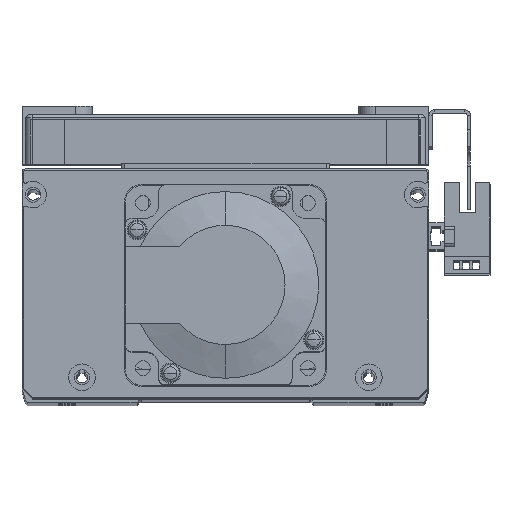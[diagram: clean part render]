
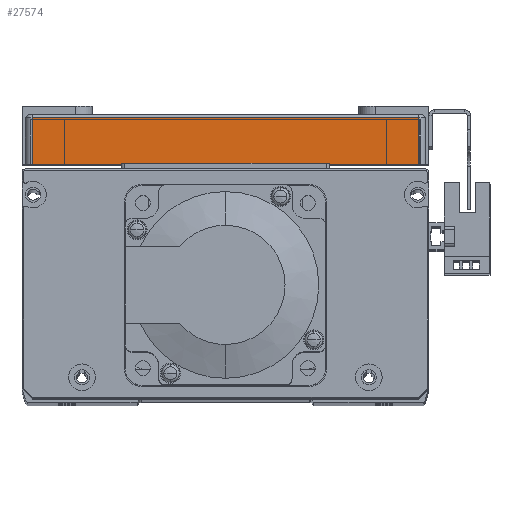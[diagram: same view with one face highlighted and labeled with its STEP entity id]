
A CAD part, top view. The second image highlights one B-rep face of the part: STEP entity #27574.
In plain terms, the highlighted planar face has unit normal (0, 0, 1) as drawn and (1, 0, 0) by its records, which use the part's own axes.
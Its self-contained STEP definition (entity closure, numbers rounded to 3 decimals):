
#24757 = VECTOR ( 'NONE', #25935, 1000. ) ;
#24758 = LINE ( 'NONE', #25075, #24785 ) ;
#24784 = LINE ( 'NONE', #25926, #24757 ) ;
#24785 = VECTOR ( 'NONE', #25313, 1000. ) ;
#24791 = LINE ( 'NONE', #25927, #24793 ) ;
#24793 = VECTOR ( 'NONE', #25920, 1000. ) ;
#24862 = LINE ( 'NONE', #30493, #24874 ) ;
#24874 = VECTOR ( 'NONE', #30559, 1000. ) ;
#25075 = CARTESIAN_POINT ( 'NONE',  ( 82.5, 15., 58. ) ) ;
#25313 = DIRECTION ( 'NONE',  ( 0., -1., 0. ) ) ;
#25920 = DIRECTION ( 'NONE',  ( 0., 0., -1. ) ) ;
#25926 = CARTESIAN_POINT ( 'NONE',  ( 82.5, 14., 58. ) ) ;
#25927 = CARTESIAN_POINT ( 'NONE',  ( 82.5, 0., -60. ) ) ;
#25935 = DIRECTION ( 'NONE',  ( 0., 0., 1. ) ) ;
#27574 = ADVANCED_FACE ( 'NONE', ( #47904 ), #48812, .F. ) ;
#30493 = CARTESIAN_POINT ( 'NONE',  ( 82.5, 15., -58. ) ) ;
#30559 = DIRECTION ( 'NONE',  ( 0., 1., 0. ) ) ;
#31438 = CARTESIAN_POINT ( 'NONE',  ( 82.5, 0., -58. ) ) ;
#31581 = CARTESIAN_POINT ( 'NONE',  ( 82.5, 0., 58. ) ) ;
#31676 = CARTESIAN_POINT ( 'NONE',  ( 82.5, 14., -58. ) ) ;
#31711 = CARTESIAN_POINT ( 'NONE',  ( 82.5, 14., 58. ) ) ;
#42694 = ORIENTED_EDGE ( 'NONE', *, *, #43921, .T. ) ;
#42734 = ORIENTED_EDGE ( 'NONE', *, *, #43914, .T. ) ;
#42737 = ORIENTED_EDGE ( 'NONE', *, *, #43917, .T. ) ;
#42769 = ORIENTED_EDGE ( 'NONE', *, *, #43952, .T. ) ;
#43914 = EDGE_CURVE ( 'NONE', #50496, #50398, #24791, .T. ) ;
#43917 = EDGE_CURVE ( 'NONE', #50535, #50525, #24784, .T. ) ;
#43921 = EDGE_CURVE ( 'NONE', #50525, #50496, #24758, .T. ) ;
#43952 = EDGE_CURVE ( 'NONE', #50398, #50535, #24862, .T. ) ;
#44425 = AXIS2_PLACEMENT_3D ( 'NONE', #48780, #48809, #48811 ) ;
#46596 = EDGE_LOOP ( 'NONE', ( #42769, #42737, #42694, #42734 ) ) ;
#47904 = FACE_OUTER_BOUND ( 'NONE', #46596, .T. ) ;
#48780 = CARTESIAN_POINT ( 'NONE',  ( 82.5, 15., -60. ) ) ;
#48809 = DIRECTION ( 'NONE',  ( -1., 0., 0. ) ) ;
#48811 = DIRECTION ( 'NONE',  ( 0., 0., 1. ) ) ;
#48812 = PLANE ( 'NONE',  #44425 ) ;
#50398 = VERTEX_POINT ( 'NONE', #31438 ) ;
#50496 = VERTEX_POINT ( 'NONE', #31581 ) ;
#50525 = VERTEX_POINT ( 'NONE', #31711 ) ;
#50535 = VERTEX_POINT ( 'NONE', #31676 ) ;
